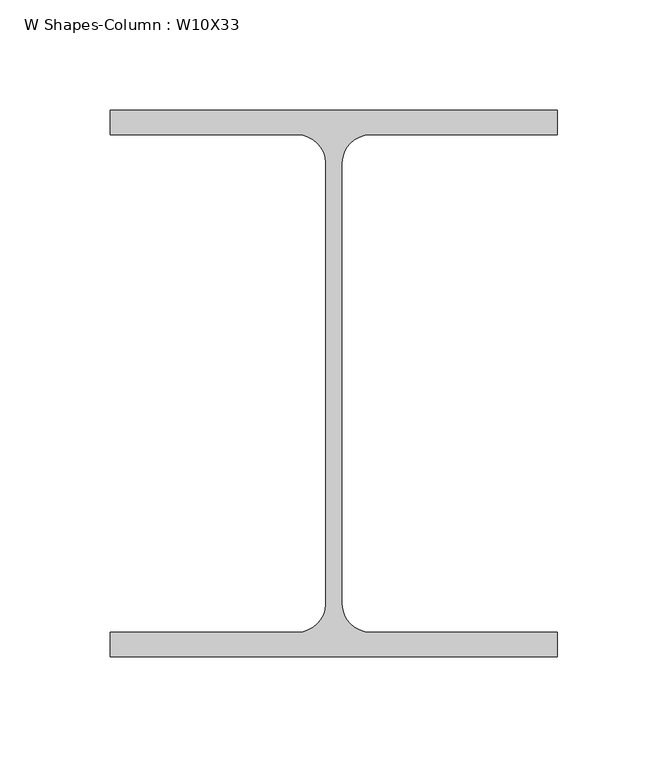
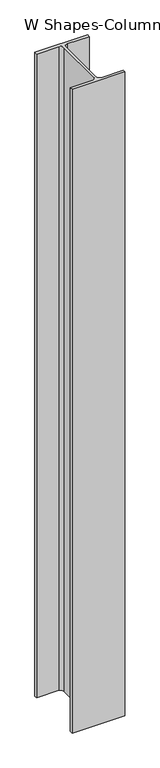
"""IFC4 building model written with IfcOpenShell, lengths in millimetres: column geometry, W Shapes-Column : W10X33."""

from ifc_helpers import new_model, si_unit, point, frame, frame_2d, origin, place, context, project, spatial, polyline, circle_curve, trimmed, segment, composite_curve, outline, extrude, source, transform, mapped, element, save


def w_shapes_column_w10x33_68d9858e(model_context):
    return source(origin(), model_context, "Body", "SweptSolid", [
        extrude(outline(composite_curve([segment(polyline([(101.092, 123.571), (101.092, 112.522), (16.383, 112.522)]), True, "CONTINUOUS"), segment(trimmed(circle_curve(frame_2d((16.383, 99.822)), 12.7), [point((16.383, 112.522))], [point((3.683, 99.822))], True, "CARTESIAN"), True, "CONTINUOUS"), segment(polyline([(3.683, 99.822), (3.683, -99.822)]), True, "CONTINUOUS"), segment(trimmed(circle_curve(frame_2d((16.383, -99.822)), 12.7), [point((3.683, -99.822))], [point((16.383, -112.522))], True, "CARTESIAN"), True, "CONTINUOUS"), segment(polyline([(16.383, -112.522), (101.092, -112.522), (101.092, -123.571), (-101.092, -123.571), (-101.092, -112.522), (-16.383, -112.522)]), True, "CONTINUOUS"), segment(trimmed(circle_curve(frame_2d((-16.383, -99.822)), 12.7), [point((-16.383, -112.522))], [point((-3.683, -99.822))], True, "CARTESIAN"), True, "CONTINUOUS"), segment(polyline([(-3.683, -99.822), (-3.683, 99.822)]), True, "CONTINUOUS"), segment(trimmed(circle_curve(frame_2d((-16.383, 99.822)), 12.7), [point((-3.683, 99.822))], [point((-16.383, 112.522))], True, "CARTESIAN"), True, "CONTINUOUS"), segment(polyline([(-16.383, 112.522), (-101.092, 112.522), (-101.092, 123.571), (101.092, 123.571)]), True, "CONTINUOUS")], self_intersect=False)), frame((0.0, 0.0, 13411.2), z_axis=(0.0, 0.0, 1.0), x_axis=(1.0, 0.0, 0.0)), (0.0, 0.0, 1.0), 2611.8897509),
    ])


if __name__ == "__main__":
    model = new_model("IFC4")
    model_context = context("Model", 3, world=origin())
    ifc_project = project(units=[si_unit("LENGTHUNIT", "METRE", prefix="MILLI")], contexts=[model_context])
    site = spatial("IfcSite", under=ifc_project)
    building = spatial("IfcBuilding", under=site)
    placement = place(None, origin())
    w_shapes_column_w10x33_shape = w_shapes_column_w10x33_68d9858e(model_context)
    element("IfcColumn", 1, ObjectType="W Shapes-Column : W10X33", at=placement, inside=building, context=model_context, shape_type="MappedRepresentation", body=[
        mapped(w_shapes_column_w10x33_shape, transform((0.0, 0.0, 0.0), x_axis=(1.0, 0.0, 0.0), y_axis=(0.0, 1.0, 0.0), z_axis=(0.0, 0.0, 1.0))),
    ])
    save(model, "model.ifc")
